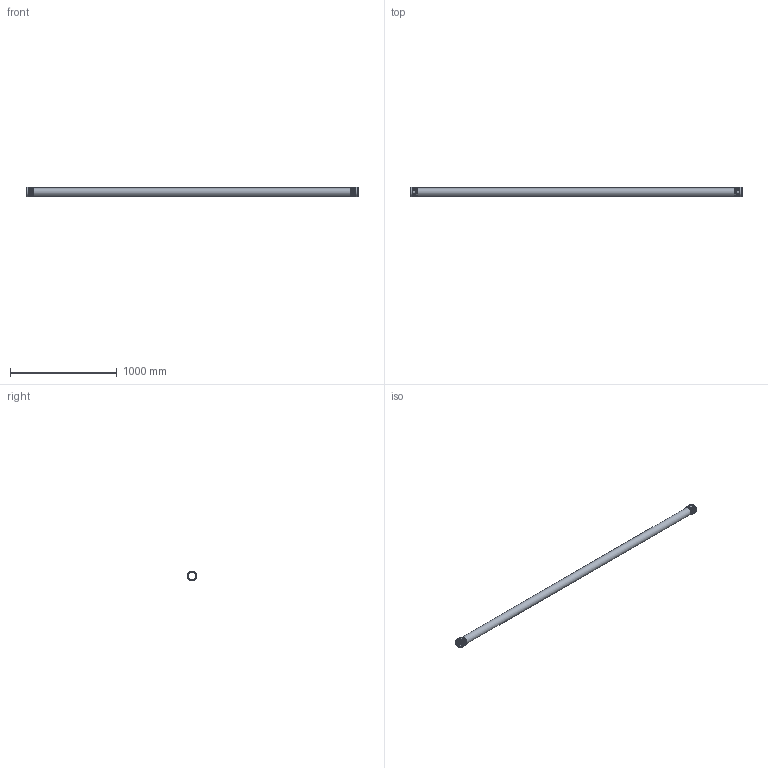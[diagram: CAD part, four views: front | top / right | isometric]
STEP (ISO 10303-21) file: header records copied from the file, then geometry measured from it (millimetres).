
FILE_DESCRIPTION(/* description */ (''),/* implementation_level */ '2;1');
FILE_NAME(/* name */ 'H:\Geberit-Teile\Export\PP_Rohr 2 Muffen_TEST\stp\393314.stp',/* time_stamp */ '2017-02-13T17:10:30+01:00',/* author */ ('seihe2'),/* organization */ (''),/* preprocessor_version */ 'ST-DEVELOPER v15.2',/* originating_system */ 'Autodesk Inventor 2014',/* authorisation */ '');
FILE_SCHEMA (('AUTOMOTIVE_DESIGN { 1 0 10303 214 3 1 1 }'));
Length unit declared in the file: millimetre
Products named in the file (1): 393314
Bounding box: 3111.4 x 91 x 91 mm (x, y, z)
Volume: 2687572 mm3; surface area: 1429429.1 mm2
Topology: 3 solids, 3 shells, 70 faces, 154 edges, 108 vertices
Faces by surface type: torus 32, cylinder 18, plane 14, bspline 4, cone 2
Full cylindrical faces by diameter (mm): 67.6 x3, 75.2 x3, 76 x2, 77.6 x2, 82.8 x2, 84.4 x2, 84.8 x2, 91 x2
Entity records: 4144 total; most frequent: CARTESIAN_POINT 2699, ORIENTED_EDGE 248, DIRECTION 238, EDGE_LOOP 124, EDGE_CURVE 124, AXIS2_PLACEMENT_3D 119, VERTEX_POINT 108, STYLED_ITEM 73
